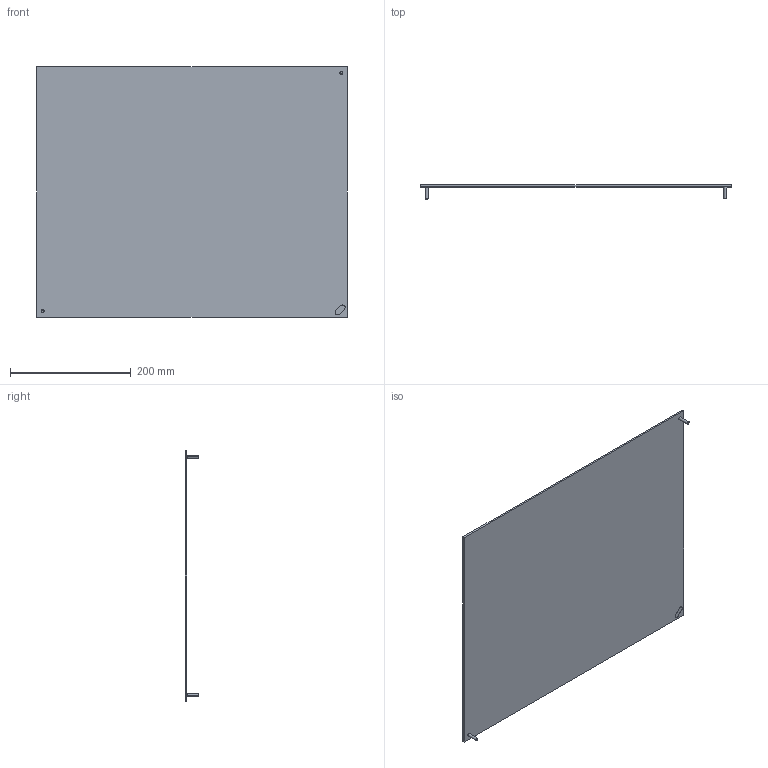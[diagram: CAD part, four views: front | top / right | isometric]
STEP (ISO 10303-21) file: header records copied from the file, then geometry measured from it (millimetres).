
FILE_DESCRIPTION (( 'STEP AP203' ), '1' );
FILE_NAME ('sy4050afp.STEP', '2017-03-09T21:51:32', ( '' ), ( '' ), 'SwSTEP 2.0', 'SolidWorks 2014', '' );
FILE_SCHEMA (( 'CONFIG_CONTROL_DESIGN' ));
Length unit declared in the file: millimetre
Products named in the file (2): 89138460; sy4050afp
Assembly tree (1 placements, depth 2):
  sy4050afp
    89138460
Bounding box: 514 x 23 x 414 mm (x, y, z)
Volume: 639136.8 mm3; surface area: 431857 mm2
Topology: 3 solids, 3 shells, 28 faces, 55 edges, 34 vertices
Faces by surface type: plane 13, cone 8, cylinder 7
Entity records: 909 total; most frequent: DIRECTION 141, CARTESIAN_POINT 121, ORIENTED_EDGE 110, EDGE_CURVE 55, AXIS2_PLACEMENT_3D 54, VERTEX_POINT 34, VECTOR 33, LINE 33
